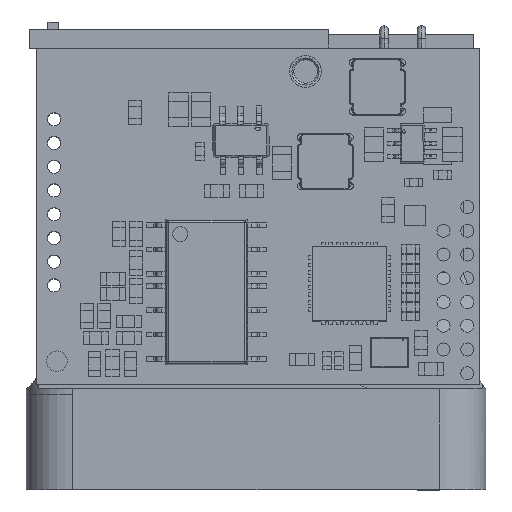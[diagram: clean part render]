
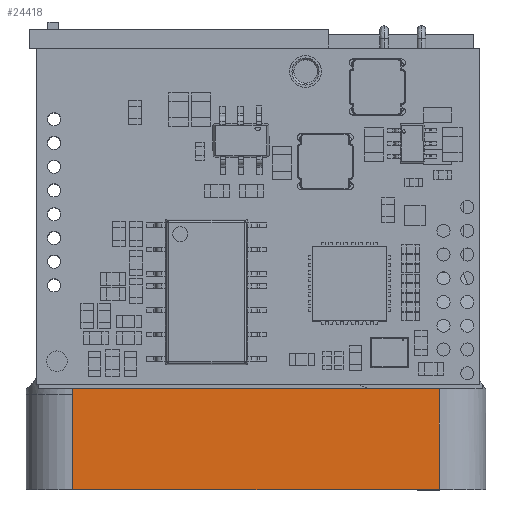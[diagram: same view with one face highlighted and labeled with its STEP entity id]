
A CAD part, top view. The second image highlights one B-rep face of the part: STEP entity #24418.
In plain terms, the highlighted planar face has unit normal (0, 0, 1).
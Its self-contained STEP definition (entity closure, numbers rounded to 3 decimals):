
#24418=ADVANCED_FACE('',(#28046),#92046,.T.);
#28046=FACE_OUTER_BOUND('',#31845,.T.);
#31845=EDGE_LOOP('',(#49573,#49574,#49575,#49576));
#49573=ORIENTED_EDGE('',*,*,#62571,.F.);
#49574=ORIENTED_EDGE('',*,*,#62572,.T.);
#49575=ORIENTED_EDGE('',*,*,#62574,.T.);
#49576=ORIENTED_EDGE('',*,*,#62573,.T.);
#62571=EDGE_CURVE('',#88350,#88349,#78037,.T.);
#62572=EDGE_CURVE('',#88350,#88351,#78038,.T.);
#62573=EDGE_CURVE('',#88352,#88349,#78039,.T.);
#62574=EDGE_CURVE('',#88351,#88352,#78040,.T.);
#78037=B_SPLINE_CURVE_WITH_KNOTS('',1,(#176017,#176018),.UNSPECIFIED.,.F.,
 .F.,(2,2),(-5.4,0.),.UNSPECIFIED.);
#78038=B_SPLINE_CURVE_WITH_KNOTS('',1,(#176019,#176020),.UNSPECIFIED.,.F.,
 .F.,(2,2),(0.,19.6),.UNSPECIFIED.);
#78039=B_SPLINE_CURVE_WITH_KNOTS('',1,(#176021,#176022),.UNSPECIFIED.,.F.,
 .F.,(2,2),(-19.6,0.),.UNSPECIFIED.);
#78040=B_SPLINE_CURVE_WITH_KNOTS('',1,(#176023,#176024),.UNSPECIFIED.,.F.,
 .F.,(2,2),(-5.4,0.),.UNSPECIFIED.);
#88349=VERTEX_POINT('',#176013);
#88350=VERTEX_POINT('',#176014);
#88351=VERTEX_POINT('',#176015);
#88352=VERTEX_POINT('',#176016);
#92046=PLANE('',#97444);
#97444=AXIS2_PLACEMENT_3D('',#176012,#105151,$);
#105151=DIRECTION('',(0.,0.,1.));
#176012=CARTESIAN_POINT('',(-6.818,-0.543,12.547));
#176013=CARTESIAN_POINT('',(-4.855,5.4,12.547));
#176014=CARTESIAN_POINT('',(-4.855,0.,12.547));
#176015=CARTESIAN_POINT('',(14.745,0.,12.547));
#176016=CARTESIAN_POINT('',(14.745,5.4,12.547));
#176017=CARTESIAN_POINT('',(-4.855,0.,12.547));
#176018=CARTESIAN_POINT('',(-4.855,5.4,12.547));
#176019=CARTESIAN_POINT('',(-4.855,0.,12.547));
#176020=CARTESIAN_POINT('',(14.745,0.,12.547));
#176021=CARTESIAN_POINT('',(14.745,5.4,12.547));
#176022=CARTESIAN_POINT('',(-4.855,5.4,12.547));
#176023=CARTESIAN_POINT('',(14.745,0.,12.547));
#176024=CARTESIAN_POINT('',(14.745,5.4,12.547));
